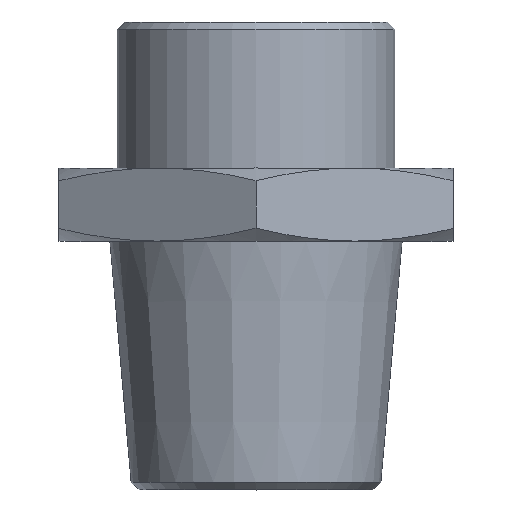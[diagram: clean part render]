
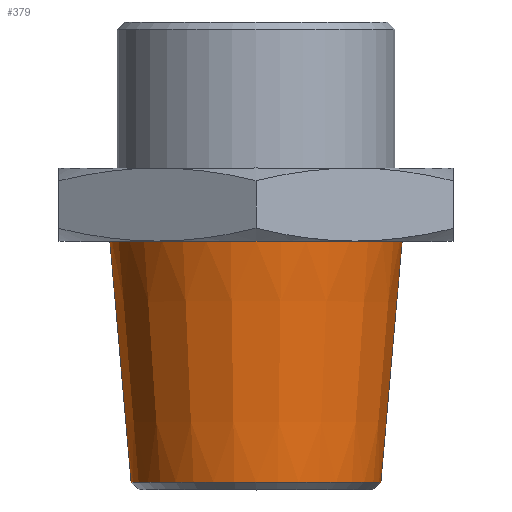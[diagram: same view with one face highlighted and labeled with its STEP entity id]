
A CAD part, top view. The second image highlights one B-rep face of the part: STEP entity #379.
In plain terms, the highlighted conical face has half-angle 5.042 degrees and reference radius 9.25 mm.
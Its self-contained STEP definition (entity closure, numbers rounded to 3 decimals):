
#57=FACE_OUTER_BOUND('',#85,.T.);
#85=EDGE_LOOP('',(#255,#256,#257,#258,#259));
#114=LINE('',#602,#125);
#125=VECTOR('',#495,9.25);
#135=CIRCLE('',#428,8.544);
#136=CIRCLE('',#429,8.544);
#139=CIRCLE('',#434,10.);
#157=VERTEX_POINT('',#589);
#158=VERTEX_POINT('',#590);
#161=VERTEX_POINT('',#600);
#191=EDGE_CURVE('',#157,#158,#135,.T.);
#192=EDGE_CURVE('',#158,#157,#136,.T.);
#196=EDGE_CURVE('',#161,#161,#139,.T.);
#197=EDGE_CURVE('',#161,#158,#114,.T.);
#255=ORIENTED_EDGE('',*,*,#196,.F.);
#256=ORIENTED_EDGE('',*,*,#197,.T.);
#257=ORIENTED_EDGE('',*,*,#191,.F.);
#258=ORIENTED_EDGE('',*,*,#192,.F.);
#259=ORIENTED_EDGE('',*,*,#197,.F.);
#363=CONICAL_SURFACE('',#433,9.25,0.088);
#379=ADVANCED_FACE('',(#57),#363,.T.);
#428=AXIS2_PLACEMENT_3D('',#591,#480,#481);
#429=AXIS2_PLACEMENT_3D('',#592,#482,#483);
#433=AXIS2_PLACEMENT_3D('',#599,#491,#492);
#434=AXIS2_PLACEMENT_3D('',#601,#493,#494);
#480=DIRECTION('center_axis',(0.,-1.,0.));
#481=DIRECTION('ref_axis',(-1.,0.,0.));
#482=DIRECTION('center_axis',(0.,-1.,0.));
#483=DIRECTION('ref_axis',(-1.,0.,0.));
#491=DIRECTION('center_axis',(0.,1.,0.));
#492=DIRECTION('ref_axis',(1.,0.,0.));
#493=DIRECTION('center_axis',(0.,1.,0.));
#494=DIRECTION('ref_axis',(1.,0.,0.));
#495=DIRECTION('',(0.088,-0.996,0.));
#589=CARTESIAN_POINT('',(8.544,-16.502,0.));
#590=CARTESIAN_POINT('',(-8.544,-16.502,0.));
#591=CARTESIAN_POINT('Origin',(0.,-16.502,0.));
#592=CARTESIAN_POINT('Origin',(0.,-16.502,0.));
#599=CARTESIAN_POINT('Origin',(0.,-8.5,0.));
#600=CARTESIAN_POINT('',(-10.,0.,0.));
#601=CARTESIAN_POINT('Origin',(0.,0.,0.));
#602=CARTESIAN_POINT('',(-9.25,-8.5,0.));
